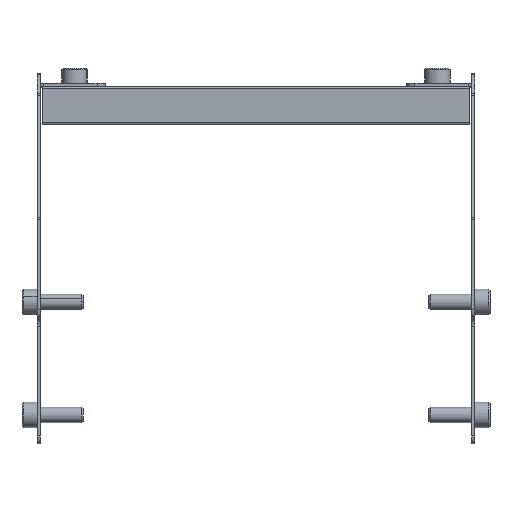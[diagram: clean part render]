
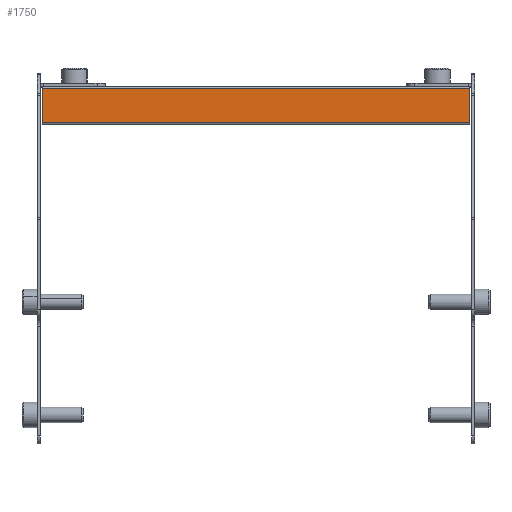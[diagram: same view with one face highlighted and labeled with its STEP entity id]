
A CAD part, front view. The second image highlights one B-rep face of the part: STEP entity #1750.
In plain terms, the highlighted planar face has unit normal (0, -1, 0) as drawn and (1, 0, 0) by its records, which use the part's own axes.
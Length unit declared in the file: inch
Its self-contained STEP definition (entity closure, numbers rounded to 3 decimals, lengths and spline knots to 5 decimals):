
#90=DIRECTION('',(0.,-1.,0.));
#91=VECTOR('',#90,0.53055);
#92=CARTESIAN_POINT('',(0.78127,0.26528,-3.30675));
#93=LINE('',#92,#91);
#772=DIRECTION('',(0.,0.,-1.));
#773=VECTOR('',#772,6.6135);
#774=CARTESIAN_POINT('',(0.78127,0.26528,3.30675));
#775=LINE('',#774,#773);
#776=DIRECTION('',(0.,-1.,0.));
#777=VECTOR('',#776,0.53055);
#778=CARTESIAN_POINT('',(0.78127,0.26528,3.30675));
#779=LINE('',#778,#777);
#780=DIRECTION('',(0.,0.,1.));
#781=VECTOR('',#780,6.6135);
#782=CARTESIAN_POINT('',(0.78127,-0.26528,-3.30675));
#783=LINE('',#782,#781);
#1049=CARTESIAN_POINT('',(0.78127,0.26528,-3.30675));
#1051=VERTEX_POINT('',#1049);
#1155=CARTESIAN_POINT('',(0.78127,0.26528,3.30675));
#1156=VERTEX_POINT('',#1155);
#1287=CARTESIAN_POINT('',(0.78127,-0.26528,3.30675));
#1288=VERTEX_POINT('',#1287);
#1298=CARTESIAN_POINT('',(0.78127,-0.26528,-3.30675));
#1299=VERTEX_POINT('',#1298);
#1738=CARTESIAN_POINT('',(0.78127,0.29528,3.30675));
#1739=DIRECTION('',(-1.,0.,0.));
#1740=DIRECTION('',(0.,0.,1.));
#1741=AXIS2_PLACEMENT_3D('',#1738,#1739,#1740);
#1742=PLANE('',#1741);
#1743=ORIENTED_EDGE('',*,*,#1539,.F.);
#1744=ORIENTED_EDGE('',*,*,#1733,.T.);
#1745=ORIENTED_EDGE('',*,*,#1390,.T.);
#1747=ORIENTED_EDGE('',*,*,#1746,.T.);
#1748=EDGE_LOOP('',(#1743,#1744,#1745,#1747));
#1749=FACE_OUTER_BOUND('',#1748,.F.);
#1390=EDGE_CURVE('',#1051,#1299,#93,.T.);
#1539=EDGE_CURVE('',#1156,#1288,#779,.T.);
#1733=EDGE_CURVE('',#1156,#1051,#775,.T.);
#1746=EDGE_CURVE('',#1299,#1288,#783,.T.);
#1750=ADVANCED_FACE('',(#1749),#1742,.F.);
